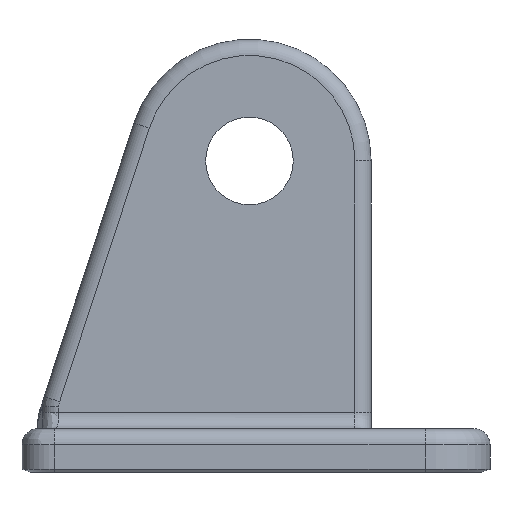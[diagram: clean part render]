
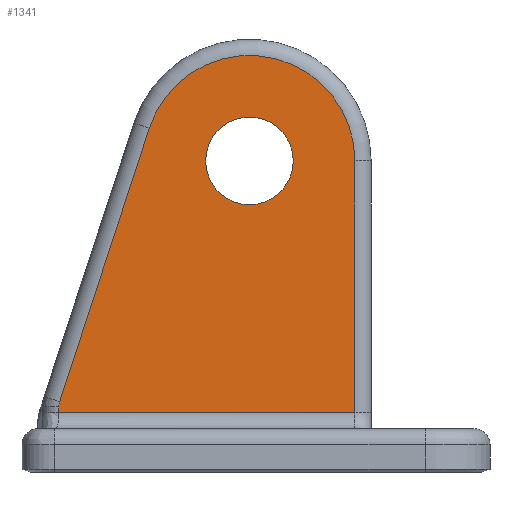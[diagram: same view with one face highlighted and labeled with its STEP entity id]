
A CAD part, left-side view. The second image highlights one B-rep face of the part: STEP entity #1341.
In plain terms, the highlighted planar face has unit normal (-1, 0, 0).
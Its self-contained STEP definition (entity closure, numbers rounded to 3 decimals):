
#56=FACE_BOUND('',#237,.T.);
#77=PLANE('',#1502);
#148=FACE_OUTER_BOUND('',#236,.T.);
#236=EDGE_LOOP('',(#1175,#1176,#1177,#1178,#1179,#1180));
#237=EDGE_LOOP('',(#1181));
#274=B_SPLINE_CURVE_WITH_KNOTS('',3,(#2451,#2452,#2453,#2454),
 .UNSPECIFIED.,.F.,.F.,(4,4),(0.,0.033),.UNSPECIFIED.);
#331=LINE('',#2411,#425);
#333=LINE('',#2423,#427);
#335=LINE('',#2458,#429);
#349=LINE('',#2575,#443);
#425=VECTOR('',#1778,10.);
#427=VECTOR('',#1792,10.);
#429=VECTOR('',#1800,10.);
#443=VECTOR('',#1858,10.);
#526=CIRCLE('',#1474,6.5);
#536=CIRCLE('',#1503,2.7);
#631=VERTEX_POINT('',#2403);
#633=VERTEX_POINT('',#2409);
#635=VERTEX_POINT('',#2415);
#637=VERTEX_POINT('',#2421);
#638=VERTEX_POINT('',#2449);
#639=VERTEX_POINT('',#2456);
#646=VERTEX_POINT('',#2576);
#798=EDGE_CURVE('',#633,#631,#331,.T.);
#801=EDGE_CURVE('',#635,#633,#526,.T.);
#804=EDGE_CURVE('',#637,#635,#333,.T.);
#808=EDGE_CURVE('',#638,#637,#274,.T.);
#810=EDGE_CURVE('',#639,#638,#335,.T.);
#833=EDGE_CURVE('',#631,#639,#349,.T.);
#834=EDGE_CURVE('',#646,#646,#536,.T.);
#1175=ORIENTED_EDGE('',*,*,#810,.F.);
#1176=ORIENTED_EDGE('',*,*,#833,.F.);
#1177=ORIENTED_EDGE('',*,*,#798,.F.);
#1178=ORIENTED_EDGE('',*,*,#801,.F.);
#1179=ORIENTED_EDGE('',*,*,#804,.F.);
#1180=ORIENTED_EDGE('',*,*,#808,.F.);
#1181=ORIENTED_EDGE('',*,*,#834,.T.);
#1341=ADVANCED_FACE('',(#148,#56),#77,.F.);
#1474=AXIS2_PLACEMENT_3D('',#2417,#1784,#1785);
#1502=AXIS2_PLACEMENT_3D('',#2574,#1856,#1857);
#1503=AXIS2_PLACEMENT_3D('',#2577,#1859,#1860);
#1778=DIRECTION('',(0.,0.,-1.));
#1784=DIRECTION('center_axis',(1.,0.,0.));
#1785=DIRECTION('ref_axis',(0.,-0.158,0.988));
#1792=DIRECTION('',(0.,-0.311,0.95));
#1800=DIRECTION('',(0.,0.,1.));
#1856=DIRECTION('center_axis',(1.,0.,0.));
#1857=DIRECTION('ref_axis',(0.,1.,0.));
#1858=DIRECTION('',(0.,1.,0.));
#1859=DIRECTION('center_axis',(1.,0.,0.));
#1860=DIRECTION('ref_axis',(0.,1.,0.));
#2403=CARTESIAN_POINT('',(-7.5,-36.5,1.));
#2409=CARTESIAN_POINT('',(-7.5,-36.5,16.5));
#2411=CARTESIAN_POINT('',(-7.5,-36.5,6.));
#2415=CARTESIAN_POINT('',(-7.5,-23.823,18.523));
#2417=CARTESIAN_POINT('Origin',(-7.5,-30.,16.5));
#2421=CARTESIAN_POINT('',(-7.5,-18.302,1.663));
#2423=CARTESIAN_POINT('',(-7.5,-19.933,6.645));
#2449=CARTESIAN_POINT('',(-7.5,-18.249,1.334));
#2451=CARTESIAN_POINT('Ctrl Pts',(-7.5,-18.249,1.334));
#2452=CARTESIAN_POINT('Ctrl Pts',(-7.5,-18.249,1.445));
#2453=CARTESIAN_POINT('Ctrl Pts',(-7.5,-18.267,1.557));
#2454=CARTESIAN_POINT('Ctrl Pts',(-7.5,-18.302,1.663));
#2456=CARTESIAN_POINT('',(-7.5,-18.249,1.));
#2458=CARTESIAN_POINT('',(-7.5,-18.249,0.));
#2574=CARTESIAN_POINT('Origin',(-7.5,-27.103,12.));
#2575=CARTESIAN_POINT('',(-7.5,-24.085,1.));
#2576=CARTESIAN_POINT('',(-7.5,-32.7,16.5));
#2577=CARTESIAN_POINT('Origin',(-7.5,-30.,16.5));
